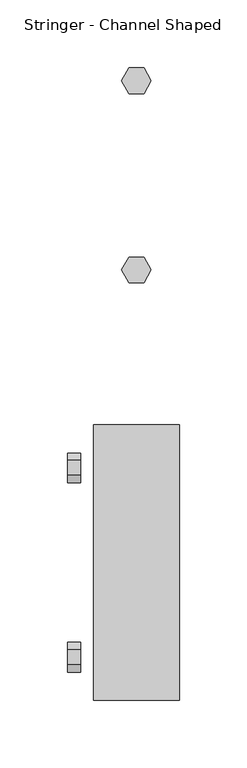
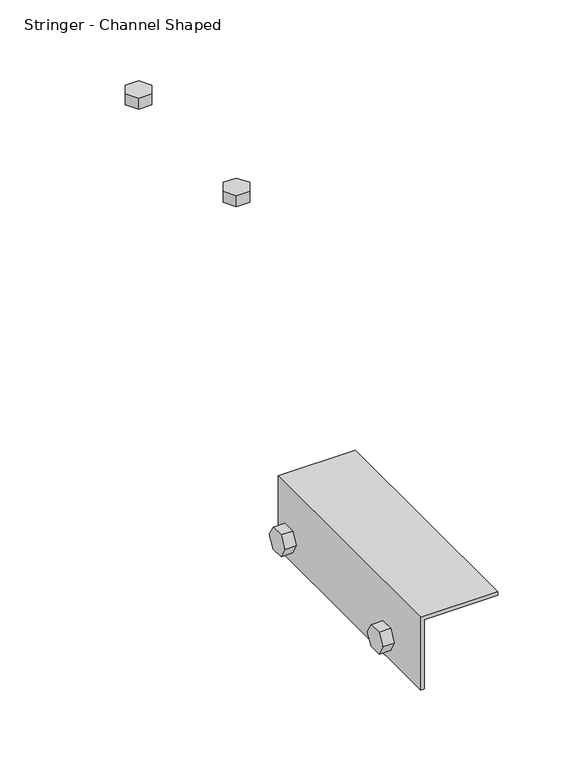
"""IFC4 building model written with IfcOpenShell, lengths in millimetres: railing geometry, Stringer - Channel Shaped."""

from ifc_helpers import new_model, si_unit, frame, origin, place, context, project, spatial, polyline, outline, extrude, source, transform, mapped, element, save


def stringer_channel_shaped_1b027425(model_context):
    return source(origin(), model_context, "Body", "SweptSolid", [
        extrude(outline(polyline([(-34577.2507461, -2348.8353492), (-34571.7514848, -2339.3103492), (-34560.7529622, -2339.3103492), (-34555.2537009, -2348.8353492), (-34560.7529622, -2358.3603492), (-34571.7514848, -2358.3603492), (-34577.2507461, -2348.8353492)])), frame((0.0, 0.0, 288.0178571), z_axis=(0.0, 0.0, 1.0), x_axis=(1.0, 0.0, 0.0)), (0.0, 0.0, 1.0), 9.525),
        extrude(outline(polyline([(-34577.2507461, -2209.1353492), (-34571.7514848, -2199.6103492), (-34560.7529622, -2199.6103492), (-34555.2537009, -2209.1353492), (-34560.7529622, -2218.6603492), (-34571.7514848, -2218.6603492), (-34577.2507461, -2209.1353492)])), frame((0.0, 0.0, 288.0178571), z_axis=(0.0, 0.0, 1.0), x_axis=(1.0, 0.0, 0.0)), (0.0, 0.0, 1.0), 9.525),
        extrude(outline(polyline([(63.0464286, -34594.8272235), (123.3714286, -34594.8272235), (123.3714286, -34534.5022235), (126.5464286, -34534.5022235), (126.5464286, -34598.0022235), (63.0464286, -34598.0022235), (63.0464286, -34594.8272235)])), frame((0.0, -2666.3353492, 0.0), z_axis=(0.0, 1.0, 0.0), x_axis=(0.0, 0.0, 1.0)), (0.0, 0.0, 1.0), 203.2),
        extrude(outline(polyline([(-2623.5868266, 94.7964286), (-2629.0860879, 85.2714286), (-2640.0846105, 85.2714286), (-2645.5838718, 94.7964286), (-2640.0846105, 104.3214286), (-2629.0860879, 104.3214286), (-2623.5868266, 94.7964286)])), frame((-34617.0522235, 0.0, 0.0), z_axis=(1.0, 0.0, 0.0), x_axis=(0.0, 1.0, 0.0)), (0.0, 0.0, 1.0), 9.525),
        extrude(outline(polyline([(-2483.8868266, 94.7964286), (-2489.3860879, 85.2714286), (-2500.3846105, 85.2714286), (-2505.8838718, 94.7964286), (-2500.3846105, 104.3214286), (-2489.3860879, 104.3214286), (-2483.8868266, 94.7964286)])), frame((-34617.0522235, 0.0, 0.0), z_axis=(1.0, 0.0, 0.0), x_axis=(0.0, 1.0, 0.0)), (0.0, 0.0, 1.0), 9.525),
        extrude(outline(polyline([(-2623.5868266, 94.7964286), (-2629.0860879, 85.2714286), (-2640.0846105, 85.2714286), (-2645.5838718, 94.7964286), (-2640.0846105, 104.3214286), (-2629.0860879, 104.3214286), (-2623.5868266, 94.7964286)])), frame((-34594.8272235, 0.0, 0.0), z_axis=(1.0, 0.0, 0.0), x_axis=(0.0, 1.0, 0.0)), (0.0, 0.0, 1.0), 9.525),
        extrude(outline(polyline([(-2483.8868266, 94.7964286), (-2489.3860879, 85.2714286), (-2500.3846105, 85.2714286), (-2505.8838718, 94.7964286), (-2500.3846105, 104.3214286), (-2489.3860879, 104.3214286), (-2483.8868266, 94.7964286)])), frame((-34594.8272235, 0.0, 0.0), z_axis=(1.0, 0.0, 0.0), x_axis=(0.0, 1.0, 0.0)), (0.0, 0.0, 1.0), 9.525),
        extrude(outline(polyline([(-34577.2507461, -2634.5853492), (-34571.7514848, -2625.0603492), (-34560.7529622, -2625.0603492), (-34555.2537009, -2634.5853492), (-34560.7529622, -2644.1103492), (-34571.7514848, -2644.1103492), (-34577.2507461, -2634.5853492)])), frame((0.0, 0.0, 113.8464286), z_axis=(0.0, 0.0, 1.0), x_axis=(1.0, 0.0, 0.0)), (0.0, 0.0, 1.0), 9.525),
        extrude(outline(polyline([(-34577.2507461, -2494.8853492), (-34571.7514848, -2485.3603492), (-34560.7529622, -2485.3603492), (-34555.2537009, -2494.8853492), (-34560.7529622, -2504.4103492), (-34571.7514848, -2504.4103492), (-34577.2507461, -2494.8853492)])), frame((0.0, 0.0, 113.8464286), z_axis=(0.0, 0.0, 1.0), x_axis=(1.0, 0.0, 0.0)), (0.0, 0.0, 1.0), 9.525),
    ])


if __name__ == "__main__":
    model = new_model("IFC4")
    model_context = context("Model", 3, world=origin())
    ifc_project = project(units=[si_unit("LENGTHUNIT", "METRE", prefix="MILLI")], contexts=[model_context])
    site = spatial("IfcSite", under=ifc_project)
    building = spatial("IfcBuilding", under=site)
    placement = place(None, origin())
    stringer_channel_shaped_shape = stringer_channel_shaped_1b027425(model_context)
    element("IfcRailing", 1, ObjectType="Stringer - Channel Shaped", at=placement, inside=building, context=model_context, shape_type="MappedRepresentation", body=[
        mapped(stringer_channel_shaped_shape, transform((0.0, 0.0, 0.0), x_axis=(1.0, 0.0, 0.0), y_axis=(0.0, 1.0, 0.0), z_axis=(0.0, 0.0, 1.0))),
    ])
    save(model, "model.ifc")
